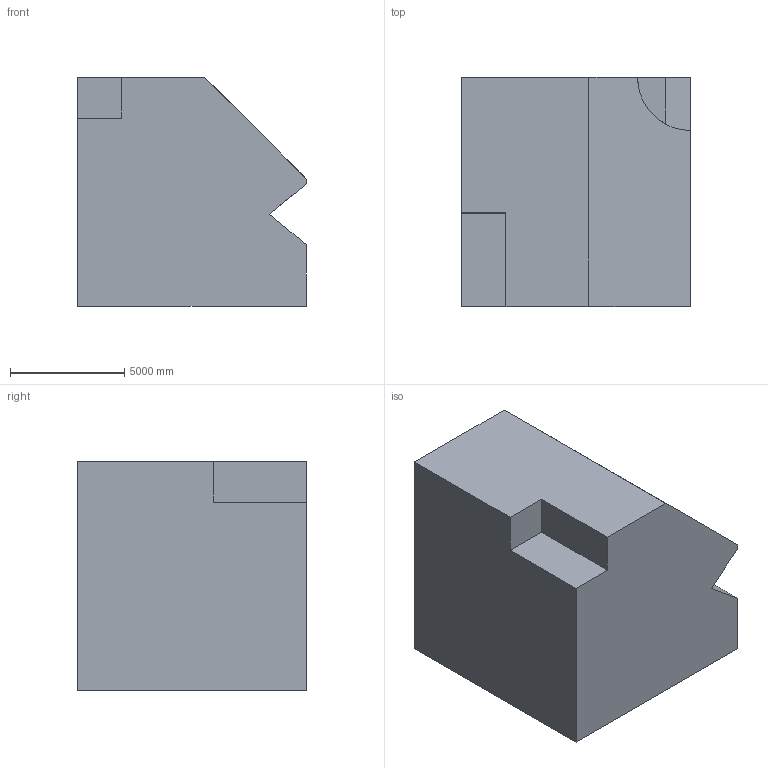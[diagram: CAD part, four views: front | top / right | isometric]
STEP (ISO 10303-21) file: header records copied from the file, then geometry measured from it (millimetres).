
FILE_DESCRIPTION (( 'STEP AP203' ), '1' );
FILE_NAME ('1325.STEP', '2022-08-18T13:46:55', ( 'user' ), ( '' ), 'SwSTEP 2.0', 'SolidWorks 2021', '' );
FILE_SCHEMA (( 'CONFIG_CONTROL_DESIGN' ));
Length unit declared in the file: centimetre
Products named in the file (1): 1325
Bounding box: 10000 x 10000 x 10000 mm (x, y, z)
Volume: 858560377081.2 mm3; surface area: 561609353.2 mm2
Topology: 1 solids, 1 shells, 15 faces, 39 edges, 26 vertices
Faces by surface type: plane 14, cylinder 1
Entity records: 531 total; most frequent: CARTESIAN_POINT 87, ORIENTED_EDGE 78, DIRECTION 70, EDGE_CURVE 39, LINE 36, VECTOR 36, VERTEX_POINT 26, AXIS2_PLACEMENT_3D 17
